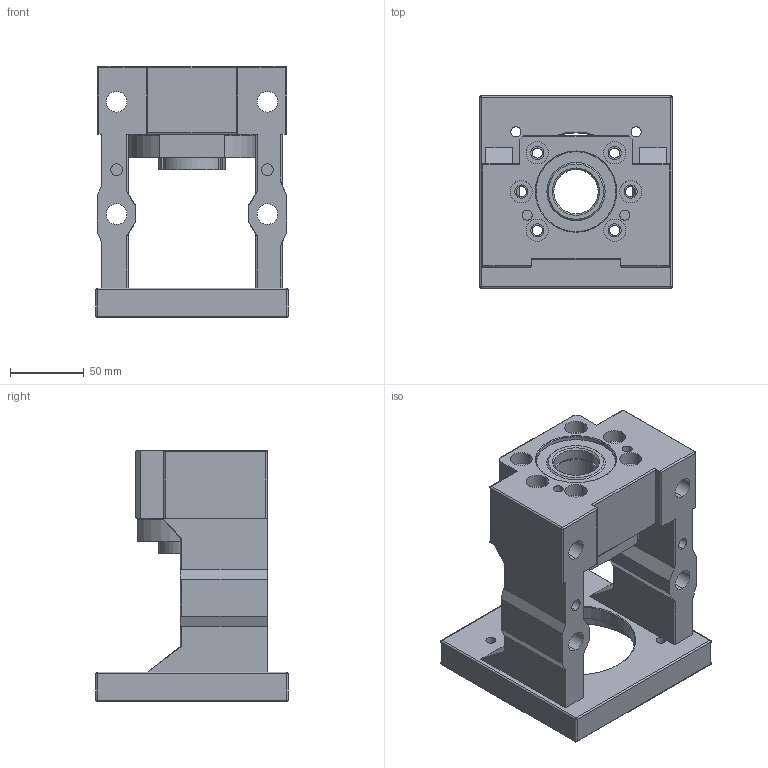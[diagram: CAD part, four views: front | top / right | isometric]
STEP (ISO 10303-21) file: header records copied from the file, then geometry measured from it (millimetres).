
FILE_DESCRIPTION((''),'2;1');
FILE_NAME('M100Y-BK30-C____________ASM_ASM','2020-01-03T',('ASUS'),(''),'PRO/ENGINEER BY PARAMETRIC TECHNOLOGY CORPORATION, 2010280','PRO/ENGINEER BY PARAMETRIC TECHNOLOGY CORPORATION, 2010280','');
FILE_SCHEMA(('CONFIG_CONTROL_DESIGN'));
Length unit declared in the file: millimetre
Products named in the file (5): M100Y-BK30-C-02_______; NFM30X1_5________; M100Y-BK30-C-03_______; M100Y-SBK25-C-01_____; M100Y-BK30-C____________ASM_ASM
Assembly tree (5 placements, depth 2):
  M100Y-BK30-C____________ASM_ASM
    M100Y-BK30-C-02_______
    NFM30X1_5________
    M100Y-BK30-C-03_______  x2
    M100Y-SBK25-C-01_____
Bounding box: 130 x 130 x 170 mm (x, y, z)
Volume: 896786.9 mm3; surface area: 162610 mm2
Topology: 5 solids, 6 shells, 290 faces, 723 edges, 450 vertices
Faces by surface type: cylinder 151, plane 90, cone 31, sphere 12, torus 4, extrusion 2
Entity records: 8693 total; most frequent: CARTESIAN_POINT 1760, DIRECTION 1483, ORIENTED_EDGE 1366, EDGE_CURVE 683, AXIS2_PLACEMENT_3D 566, VERTEX_POINT 434, VECTOR 351, LINE 349
